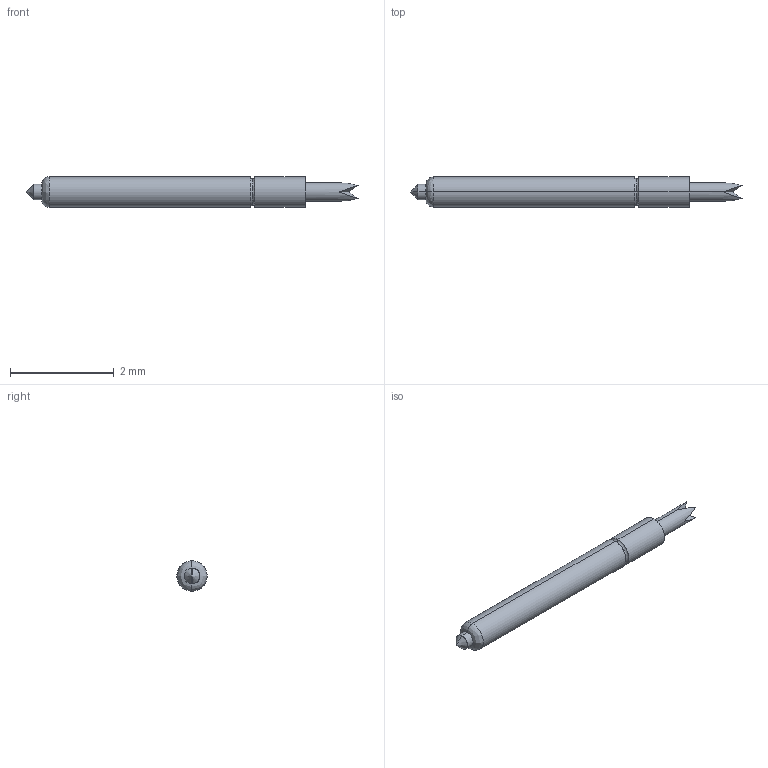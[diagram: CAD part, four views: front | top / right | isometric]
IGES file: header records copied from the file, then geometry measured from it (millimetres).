
Start section: SolidWorks IGES file using analytic representation for surfaces
Global section: file name: Z:\probe solid model mockups\Solidworks models\IGES Files\CSP8-20 IGES files\CSP8-20LB Full.IGS; native system: SolidWorks 2006 by SolidWorks Corporation; preprocessor: SolidWorks 2006 by SolidWorks Corporation; author: tsakatani; date: 080108.153000; units: inch
Bounding box: 6.4 x 0.58 x 0.58 mm (x, y, z)
Surface area: 11.1 mm2 (no closed solid volume)
Topology: 0 solids, 0 shells, 25 faces, 142 edges, 140 vertices
Faces by surface type: bspline 15, revolution 10
